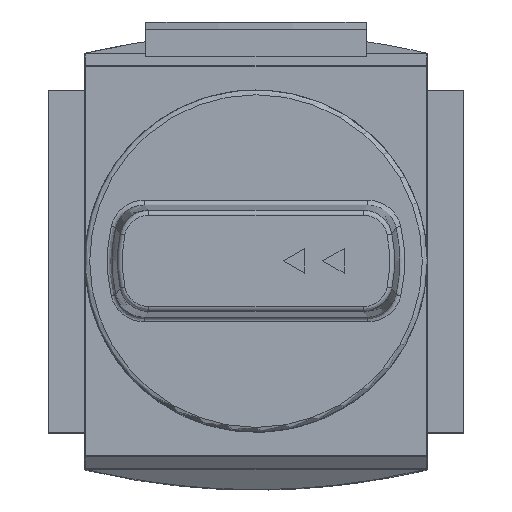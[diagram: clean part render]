
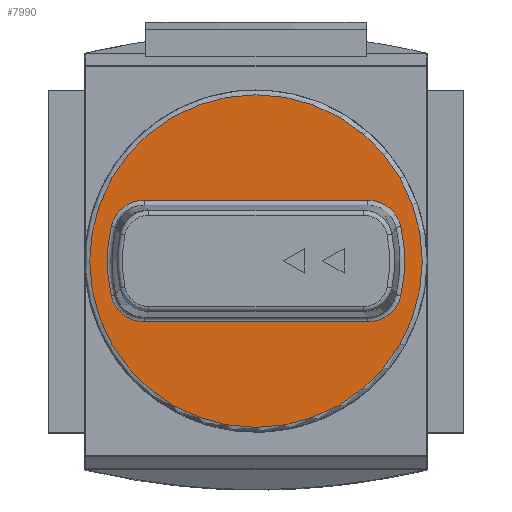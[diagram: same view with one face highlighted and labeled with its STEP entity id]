
A CAD part, top view. The second image highlights one B-rep face of the part: STEP entity #7990.
In plain terms, the highlighted planar face has unit normal (0, 0, 1).
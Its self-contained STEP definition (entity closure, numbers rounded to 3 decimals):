
#7849=CARTESIAN_POINT('',(34.0,0.,70.7));
#7850=VERTEX_POINT('',#7849);
#7851=CARTESIAN_POINT('',(0.0,0.0,70.7));
#7852=DIRECTION('',(0.0,0.0,-1.0));
#7853=DIRECTION('',(-1.0,0.0,0.0));
#7854=AXIS2_PLACEMENT_3D('',#7851,#7852,#7853);
#7855=CIRCLE('',#7854,34.0);
#7856=EDGE_CURVE('',#7850,#7850,#7855,.T.);
#7872=CARTESIAN_POINT('',(0.0,0.0,70.7));
#7873=DIRECTION('',(0.0,0.0,-1.0));
#7874=DIRECTION('',(-1.0,0.0,0.0));
#7875=AXIS2_PLACEMENT_3D('',#7872,#7873,#7874);
#7876=PLANE('',#7875);
#7877=ORIENTED_EDGE('',*,*,#7856,.F.);
#7878=EDGE_LOOP('',(#7877));
#7879=FACE_OUTER_BOUND('',#7878,.T.);
#7880=CARTESIAN_POINT('',(22.815,-12.449,70.7));
#7881=VERTEX_POINT('',#7880);
#7882=CARTESIAN_POINT('',(29.613,-7.085,70.7));
#7883=VERTEX_POINT('',#7882);
#7884=CARTESIAN_POINT('',(22.815,-12.449,70.7));
#7885=CARTESIAN_POINT('',(23.036,-12.449,70.7));
#7886=CARTESIAN_POINT('',(23.48,-12.428,70.7));
#7887=CARTESIAN_POINT('',(24.366,-12.3,70.7));
#7888=CARTESIAN_POINT('',(25.225,-12.047,70.7));
#7889=CARTESIAN_POINT('',(26.031,-11.678,70.7));
#7890=CARTESIAN_POINT('',(26.806,-11.229,70.7));
#7891=CARTESIAN_POINT('',(27.509,-10.672,70.7));
#7892=CARTESIAN_POINT('',(28.118,-10.03,70.7));
#7893=CARTESIAN_POINT('',(28.667,-9.326,70.7));
#7894=CARTESIAN_POINT('',(29.219,-8.363,70.7));
#7895=CARTESIAN_POINT('',(29.51,-7.516,70.7));
#7896=CARTESIAN_POINT('',(29.613,-7.085,70.7));
#7897=B_SPLINE_CURVE_WITH_KNOTS('',3,(#7884,#7885,#7886,#7887,#7888,#7889,#7890,#7891,#7892,#7893,#7894,#7895,#7896),.UNSPECIFIED.,.F.,.U.,(4,1,1,1,1,1,1,1,1,1,4),(-0.929,-0.863,-0.796,-0.664,-0.597,-0.531,-0.398,-0.332,-0.265,-0.133,0.0),.UNSPECIFIED.);
#7898=EDGE_CURVE('',#7881,#7883,#7897,.T.);
#7899=ORIENTED_EDGE('',*,*,#7898,.F.);
#7900=CARTESIAN_POINT('',(-22.815,-12.449,70.7));
#7901=VERTEX_POINT('',#7900);
#7902=CARTESIAN_POINT('',(-22.815,-12.449,70.7));
#7903=DIRECTION('',(1.0,0.0,0.0));
#7904=VECTOR('',#7903,45.629);
#7905=LINE('',#7902,#7904);
#7906=EDGE_CURVE('',#7901,#7881,#7905,.T.);
#7907=ORIENTED_EDGE('',*,*,#7906,.F.);
#7908=CARTESIAN_POINT('',(-29.613,-7.085,70.7));
#7909=VERTEX_POINT('',#7908);
#7910=CARTESIAN_POINT('',(-29.613,-7.085,70.7));
#7911=CARTESIAN_POINT('',(-29.51,-7.516,70.7));
#7912=CARTESIAN_POINT('',(-29.22,-8.363,70.7));
#7913=CARTESIAN_POINT('',(-28.668,-9.326,70.7));
#7914=CARTESIAN_POINT('',(-28.118,-10.029,70.7));
#7915=CARTESIAN_POINT('',(-27.509,-10.672,70.7));
#7916=CARTESIAN_POINT('',(-26.807,-11.229,70.7));
#7917=CARTESIAN_POINT('',(-26.031,-11.677,70.7));
#7918=CARTESIAN_POINT('',(-25.226,-12.047,70.7));
#7919=CARTESIAN_POINT('',(-24.151,-12.364,70.7));
#7920=CARTESIAN_POINT('',(-23.257,-12.449,70.7));
#7921=CARTESIAN_POINT('',(-22.815,-12.449,70.7));
#7922=B_SPLINE_CURVE_WITH_KNOTS('',3,(#7910,#7911,#7912,#7913,#7914,#7915,#7916,#7917,#7918,#7919,#7920,#7921),.UNSPECIFIED.,.F.,.U.,(4,1,1,1,1,1,1,1,1,4),(-0.929,-0.796,-0.664,-0.597,-0.531,-0.398,-0.332,-0.265,-0.133,0.),.UNSPECIFIED.);
#7923=EDGE_CURVE('',#7909,#7901,#7922,.T.);
#7924=ORIENTED_EDGE('',*,*,#7923,.F.);
#7925=CARTESIAN_POINT('',(-29.613,7.085,70.7));
#7926=VERTEX_POINT('',#7925);
#7927=CARTESIAN_POINT('',(0.0,0.0,70.7));
#7928=DIRECTION('',(0.0,0.0,1.0));
#7929=DIRECTION('',(-1.0,0.0,0.0));
#7930=AXIS2_PLACEMENT_3D('',#7927,#7928,#7929);
#7931=CIRCLE('',#7930,30.449);
#7932=EDGE_CURVE('',#7926,#7909,#7931,.T.);
#7933=ORIENTED_EDGE('',*,*,#7932,.F.);
#7934=CARTESIAN_POINT('',(-22.815,12.449,70.7));
#7935=VERTEX_POINT('',#7934);
#7936=CARTESIAN_POINT('',(-22.815,12.449,70.7));
#7937=CARTESIAN_POINT('',(-23.257,12.449,70.7));
#7938=CARTESIAN_POINT('',(-24.151,12.364,70.7));
#7939=CARTESIAN_POINT('',(-25.146,12.07,70.7));
#7940=CARTESIAN_POINT('',(-25.754,11.805,70.7));
#7941=CARTESIAN_POINT('',(-26.053,11.657,70.7));
#7942=CARTESIAN_POINT('',(-26.273,11.536,70.7));
#7943=CARTESIAN_POINT('',(-26.465,11.422,70.7));
#7944=CARTESIAN_POINT('',(-26.843,11.184,70.7));
#7945=CARTESIAN_POINT('',(-27.425,10.746,70.7));
#7946=CARTESIAN_POINT('',(-28.05,10.117,70.7));
#7947=CARTESIAN_POINT('',(-28.668,9.326,70.7));
#7948=CARTESIAN_POINT('',(-29.054,8.652,70.7));
#7949=CARTESIAN_POINT('',(-29.402,7.833,70.7));
#7950=CARTESIAN_POINT('',(-29.536,7.408,70.7));
#7951=CARTESIAN_POINT('',(-29.613,7.085,70.7));
#7952=B_SPLINE_CURVE_WITH_KNOTS('',3,(#7936,#7937,#7938,#7939,#7940,#7941,#7942,#7943,#7944,#7945,#7946,#7947,#7948,#7949,#7950,#7951),.UNSPECIFIED.,.F.,.U.,(4,1,1,1,1,1,1,1,1,1,1,1,1,4),(-0.929,-0.796,-0.664,-0.622,-0.597,-0.564,-0.548,-0.531,-0.431,-0.332,-0.265,-0.133,-0.1,0.),.UNSPECIFIED.);
#7953=EDGE_CURVE('',#7935,#7926,#7952,.T.);
#7954=ORIENTED_EDGE('',*,*,#7953,.F.);
#7955=CARTESIAN_POINT('',(22.815,12.449,70.7));
#7956=VERTEX_POINT('',#7955);
#7957=CARTESIAN_POINT('',(22.815,12.449,70.7));
#7958=DIRECTION('',(-1.0,0.0,0.0));
#7959=VECTOR('',#7958,45.629);
#7960=LINE('',#7957,#7959);
#7961=EDGE_CURVE('',#7956,#7935,#7960,.T.);
#7962=ORIENTED_EDGE('',*,*,#7961,.F.);
#7963=CARTESIAN_POINT('',(29.613,7.085,70.7));
#7964=VERTEX_POINT('',#7963);
#7965=CARTESIAN_POINT('',(29.613,7.085,70.7));
#7966=CARTESIAN_POINT('',(29.562,7.3,70.7));
#7967=CARTESIAN_POINT('',(29.438,7.728,70.7));
#7968=CARTESIAN_POINT('',(29.108,8.56,70.7));
#7969=CARTESIAN_POINT('',(28.661,9.336,70.7));
#7970=CARTESIAN_POINT('',(28.115,10.034,70.7));
#7971=CARTESIAN_POINT('',(27.498,10.683,70.7));
#7972=CARTESIAN_POINT('',(26.793,11.237,70.7));
#7973=CARTESIAN_POINT('',(26.026,11.68,70.7));
#7974=CARTESIAN_POINT('',(25.215,12.051,70.7));
#7975=CARTESIAN_POINT('',(24.149,12.363,70.7));
#7976=CARTESIAN_POINT('',(23.257,12.449,70.7));
#7977=CARTESIAN_POINT('',(22.815,12.449,70.7));
#7978=B_SPLINE_CURVE_WITH_KNOTS('',3,(#7965,#7966,#7967,#7968,#7969,#7970,#7971,#7972,#7973,#7974,#7975,#7976,#7977),.UNSPECIFIED.,.F.,.U.,(4,1,1,1,1,1,1,1,1,1,4),(-0.929,-0.863,-0.796,-0.664,-0.597,-0.531,-0.398,-0.332,-0.265,-0.133,0.0),.UNSPECIFIED.);
#7979=EDGE_CURVE('',#7964,#7956,#7978,.T.);
#7980=ORIENTED_EDGE('',*,*,#7979,.F.);
#7981=CARTESIAN_POINT('',(0.0,0.0,70.7));
#7982=DIRECTION('',(0.0,0.0,1.0));
#7983=DIRECTION('',(1.0,0.0,0.0));
#7984=AXIS2_PLACEMENT_3D('',#7981,#7982,#7983);
#7985=CIRCLE('',#7984,30.449);
#7986=EDGE_CURVE('',#7883,#7964,#7985,.T.);
#7987=ORIENTED_EDGE('',*,*,#7986,.F.);
#7988=EDGE_LOOP('',(#7899,#7907,#7924,#7933,#7954,#7962,#7980,#7987));
#7989=FACE_BOUND('',#7988,.T.);
#7990=ADVANCED_FACE('',(#7879,#7989),#7876,.F.);
